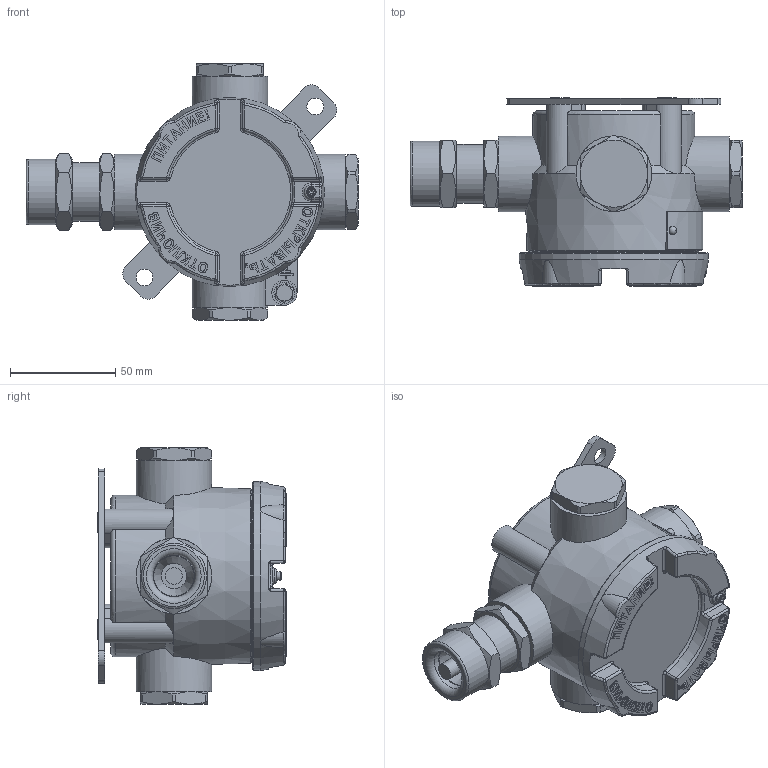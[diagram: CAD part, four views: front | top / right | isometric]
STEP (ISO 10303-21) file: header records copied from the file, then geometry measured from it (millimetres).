
FILE_DESCRIPTION(('STEP AP242'), '1');
FILE_NAME('Èíäèêàòîð òîêîâîãî ñèãíàëà 4-20 ìÀ', '', ('UNSPECIFIED'), ('UNSPECIFIED'), 'C3D Converter', 'C3D Toolkit', '');
FILE_SCHEMA(('AP242_MANAGED_MODEL_BASED_3D_ENGINEERING_MIM_LF { 1 0 10303 442 1 1 4 }'));
Length unit declared in the file: millimetre
Bounding box: 158 x 89.75 x 122 mm (x, y, z)
Volume: 369834.8 mm3; surface area: 120793.2 mm2
Topology: 1 solids, 12 shells, 1466 faces, 3719 edges, 2380 vertices
Faces by surface type: plane 731, extrusion 274, cylinder 222, cone 131, torus 57, bspline 34, sphere 12, revolution 5
Full cylindrical faces by diameter (mm): 2.459 x1, 2.8 x2, 3 x8, 3.2 x3, 3.242 x2, 4 x5, 4.134 x2, 4.2 x2, 4.5 x6, 5 x4, 5.5 x10, 6 x2, 6.3 x1, 6.5 x1, 7 x8, 8 x4, 9 x1, 10 x1, 12 x2, 13 x1, 20 x1, 23 x1, 23.376 x5, 28 x1, 31 x1, 36 x4, 52 x2, 60 x1, 64 x3, 64.7 x1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
Entity records: 56837 total; most frequent: CARTESIAN_POINT 23788, ORIENTED_EDGE 7024, DIRECTION 5963, EDGE_CURVE 3512, VERTEX_POINT 2372, VECTOR 2120, AXIS2_PLACEMENT_3D 1919, LINE 1846
